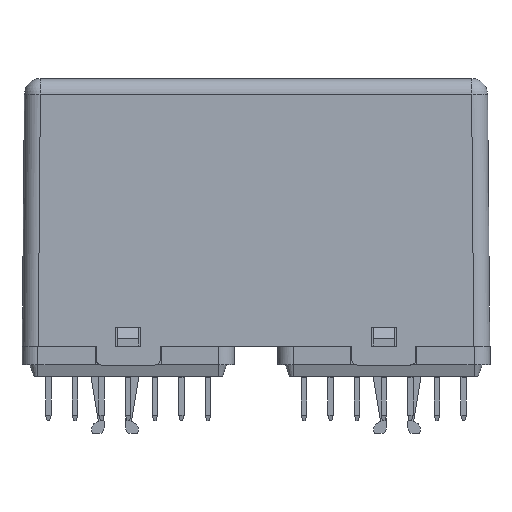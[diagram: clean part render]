
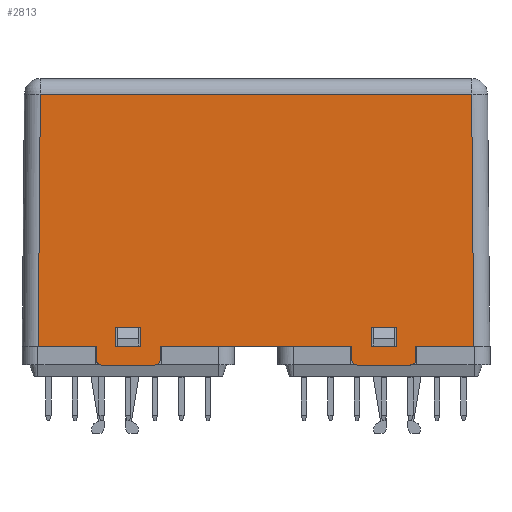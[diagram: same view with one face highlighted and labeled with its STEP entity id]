
A CAD part, front view. The second image highlights one B-rep face of the part: STEP entity #2813.
In plain terms, the highlighted planar face has unit normal (0, -1, 0.011).
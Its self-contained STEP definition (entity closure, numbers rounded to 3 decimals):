
#903=CARTESIAN_POINT('',(40.909,-19.998,-0.05));
#904=VERTEX_POINT('',#903);
#912=CARTESIAN_POINT('',(30.,-19.998,-0.05));
#913=VERTEX_POINT('',#912);
#914=CARTESIAN_POINT('',(40.909,-19.998,-0.05));
#915=DIRECTION('',(-1.0,0.0,0.0));
#916=VECTOR('',#915,10.909);
#917=LINE('',#914,#916);
#918=EDGE_CURVE('',#904,#913,#917,.T.);
#1050=CARTESIAN_POINT('',(21.6,-19.999,-0.15));
#1051=VERTEX_POINT('',#1050);
#1058=CARTESIAN_POINT('',(26.4,-19.999,-0.15));
#1059=VERTEX_POINT('',#1058);
#1060=CARTESIAN_POINT('',(26.4,-19.999,-0.15));
#1061=DIRECTION('',(-1.0,0.0,0.0));
#1062=VECTOR('',#1061,4.8);
#1063=LINE('',#1060,#1062);
#1064=EDGE_CURVE('',#1059,#1051,#1063,.T.);
#1991=CARTESIAN_POINT('',(-30.0,-19.998,-0.05));
#1992=VERTEX_POINT('',#1991);
#1999=CARTESIAN_POINT('',(-40.909,-19.998,-0.05));
#2000=VERTEX_POINT('',#1999);
#2001=CARTESIAN_POINT('',(-30.0,-19.998,-0.05));
#2002=DIRECTION('',(-1.0,0.0,0.0));
#2003=VECTOR('',#2002,10.909);
#2004=LINE('',#2001,#2003);
#2005=EDGE_CURVE('',#1992,#2000,#2004,.T.);
#2040=CARTESIAN_POINT('',(-30.0,-20.024,-2.55));
#2041=VERTEX_POINT('',#2040);
#2048=CARTESIAN_POINT('',(-30.0,-20.024,-2.55));
#2049=DIRECTION('',(0.0,0.011,1.));
#2050=VECTOR('',#2049,2.5);
#2051=LINE('',#2048,#2050);
#2052=EDGE_CURVE('',#2041,#1992,#2051,.T.);
#2064=CARTESIAN_POINT('',(-29.0,-20.035,-3.55));
#2065=VERTEX_POINT('',#2064);
#2072=CARTESIAN_POINT('',(-29.0,-20.024,-2.55));
#2073=DIRECTION('',(0.,1.,-0.011));
#2074=DIRECTION('',(0.,0.011,1.));
#2075=AXIS2_PLACEMENT_3D('',#2072,#2073,#2074);
#2076=ELLIPSE('',#2075,1.,1.);
#2077=EDGE_CURVE('',#2065,#2041,#2076,.T.);
#2089=CARTESIAN_POINT('',(-19.0,-20.035,-3.55));
#2090=VERTEX_POINT('',#2089);
#2097=CARTESIAN_POINT('',(-29.,-20.035,-3.55));
#2098=DIRECTION('',(1.0,0.0,0.0));
#2099=VECTOR('',#2098,10.0);
#2100=LINE('',#2097,#2099);
#2101=EDGE_CURVE('',#2065,#2090,#2100,.T.);
#2113=CARTESIAN_POINT('',(-18.,-20.024,-2.55));
#2114=VERTEX_POINT('',#2113);
#2121=CARTESIAN_POINT('',(-19.0,-20.024,-2.55));
#2122=DIRECTION('',(0.,1.,-0.011));
#2123=DIRECTION('',(0.,0.011,1.));
#2124=AXIS2_PLACEMENT_3D('',#2121,#2122,#2123);
#2125=ELLIPSE('',#2124,1.,1.);
#2126=EDGE_CURVE('',#2114,#2090,#2125,.T.);
#2138=CARTESIAN_POINT('',(-18.,-19.998,-0.05));
#2139=VERTEX_POINT('',#2138);
#2146=CARTESIAN_POINT('',(-18.0,-19.998,-0.05));
#2147=DIRECTION('',(0.,-0.011,-1.));
#2148=VECTOR('',#2147,2.5);
#2149=LINE('',#2146,#2148);
#2150=EDGE_CURVE('',#2139,#2114,#2149,.T.);
#2196=CARTESIAN_POINT('',(18.,-19.998,-0.05));
#2197=VERTEX_POINT('',#2196);
#2204=CARTESIAN_POINT('',(18.,-19.998,-0.05));
#2205=DIRECTION('',(-1.0,0.0,0.0));
#2206=VECTOR('',#2205,36.0);
#2207=LINE('',#2204,#2206);
#2208=EDGE_CURVE('',#2197,#2139,#2207,.T.);
#2236=CARTESIAN_POINT('',(18.,-20.024,-2.55));
#2237=VERTEX_POINT('',#2236);
#2244=CARTESIAN_POINT('',(18.,-20.024,-2.55));
#2245=DIRECTION('',(0.,0.011,1.));
#2246=VECTOR('',#2245,2.5);
#2247=LINE('',#2244,#2246);
#2248=EDGE_CURVE('',#2237,#2197,#2247,.T.);
#2260=CARTESIAN_POINT('',(19.,-20.035,-3.55));
#2261=VERTEX_POINT('',#2260);
#2268=CARTESIAN_POINT('',(19.,-20.024,-2.55));
#2269=DIRECTION('',(0.,1.,-0.011));
#2270=DIRECTION('',(0.,0.011,1.));
#2271=AXIS2_PLACEMENT_3D('',#2268,#2269,#2270);
#2272=ELLIPSE('',#2271,1.,1.);
#2273=EDGE_CURVE('',#2261,#2237,#2272,.T.);
#2285=CARTESIAN_POINT('',(29.,-20.035,-3.55));
#2286=VERTEX_POINT('',#2285);
#2293=CARTESIAN_POINT('',(19.,-20.035,-3.55));
#2294=DIRECTION('',(1.0,0.0,0.0));
#2295=VECTOR('',#2294,10.);
#2296=LINE('',#2293,#2295);
#2297=EDGE_CURVE('',#2261,#2286,#2296,.T.);
#2308=CARTESIAN_POINT('',(-40.5,-19.5,47.282));
#2309=VERTEX_POINT('',#2308);
#2402=CARTESIAN_POINT('',(40.5,-19.5,47.282));
#2403=VERTEX_POINT('',#2402);
#2572=CARTESIAN_POINT('',(-40.5,-19.5,47.282));
#2573=DIRECTION('',(1.0,0.0,0.0));
#2574=VECTOR('',#2573,81.);
#2575=LINE('',#2572,#2574);
#2576=EDGE_CURVE('',#2309,#2403,#2575,.T.);
#2604=CARTESIAN_POINT('',(40.5,-19.5,47.282));
#2605=DIRECTION('',(0.009,-0.011,-1.));
#2606=VECTOR('',#2605,47.336);
#2607=LINE('',#2604,#2606);
#2608=EDGE_CURVE('',#2403,#904,#2607,.T.);
#2676=CARTESIAN_POINT('',(-40.909,-19.998,-0.05));
#2677=DIRECTION('',(0.009,0.011,1.));
#2678=VECTOR('',#2677,47.336);
#2679=LINE('',#2676,#2678);
#2680=EDGE_CURVE('',#2000,#2309,#2679,.T.);
#2718=CARTESIAN_POINT('',(0.,-19.5,47.282));
#2719=DIRECTION('',(0.,1.,-0.011));
#2720=DIRECTION('',(0.,-0.011,-1.));
#2721=AXIS2_PLACEMENT_3D('',#2718,#2719,#2720);
#2722=PLANE('',#2721);
#2723=ORIENTED_EDGE('',*,*,#2608,.F.);
#2724=ORIENTED_EDGE('',*,*,#2576,.F.);
#2725=ORIENTED_EDGE('',*,*,#2680,.F.);
#2726=ORIENTED_EDGE('',*,*,#2005,.F.);
#2727=ORIENTED_EDGE('',*,*,#2052,.F.);
#2728=ORIENTED_EDGE('',*,*,#2077,.F.);
#2729=ORIENTED_EDGE('',*,*,#2101,.T.);
#2730=ORIENTED_EDGE('',*,*,#2126,.F.);
#2731=ORIENTED_EDGE('',*,*,#2150,.F.);
#2732=ORIENTED_EDGE('',*,*,#2208,.F.);
#2733=ORIENTED_EDGE('',*,*,#2248,.F.);
#2734=ORIENTED_EDGE('',*,*,#2273,.F.);
#2735=ORIENTED_EDGE('',*,*,#2297,.T.);
#2736=CARTESIAN_POINT('',(30.,-20.024,-2.55));
#2737=VERTEX_POINT('',#2736);
#2738=CARTESIAN_POINT('',(29.,-20.024,-2.55));
#2739=DIRECTION('',(0.,1.,-0.011));
#2740=DIRECTION('',(0.,0.011,1.));
#2741=AXIS2_PLACEMENT_3D('',#2738,#2739,#2740);
#2742=ELLIPSE('',#2741,1.,1.0);
#2743=EDGE_CURVE('',#2737,#2286,#2742,.T.);
#2744=ORIENTED_EDGE('',*,*,#2743,.F.);
#2745=CARTESIAN_POINT('',(30.0,-19.998,-0.05));
#2746=DIRECTION('',(0.0,-0.011,-1.));
#2747=VECTOR('',#2746,2.5);
#2748=LINE('',#2745,#2747);
#2749=EDGE_CURVE('',#913,#2737,#2748,.T.);
#2750=ORIENTED_EDGE('',*,*,#2749,.F.);
#2751=ORIENTED_EDGE('',*,*,#918,.F.);
#2752=EDGE_LOOP('',(#2723,#2724,#2725,#2726,#2727,#2728,#2729,#2730,#2731,#2732,#2733,#2734,#2735,#2744,#2750,#2751));
#2753=FACE_OUTER_BOUND('',#2752,.T.);
#2754=CARTESIAN_POINT('',(26.4,-19.961,3.45));
#2755=VERTEX_POINT('',#2754);
#2756=CARTESIAN_POINT('',(26.4,-19.961,3.45));
#2757=DIRECTION('',(0.0,-0.011,-1.));
#2758=VECTOR('',#2757,3.6);
#2759=LINE('',#2756,#2758);
#2760=EDGE_CURVE('',#2755,#1059,#2759,.T.);
#2761=ORIENTED_EDGE('',*,*,#2760,.T.);
#2762=ORIENTED_EDGE('',*,*,#1064,.T.);
#2763=CARTESIAN_POINT('',(21.6,-19.961,3.45));
#2764=VERTEX_POINT('',#2763);
#2765=CARTESIAN_POINT('',(21.6,-19.999,-0.15));
#2766=DIRECTION('',(0.,0.011,1.));
#2767=VECTOR('',#2766,3.6);
#2768=LINE('',#2765,#2767);
#2769=EDGE_CURVE('',#1051,#2764,#2768,.T.);
#2770=ORIENTED_EDGE('',*,*,#2769,.T.);
#2771=CARTESIAN_POINT('',(21.6,-19.961,3.45));
#2772=DIRECTION('',(1.0,0.0,0.0));
#2773=VECTOR('',#2772,4.8);
#2774=LINE('',#2771,#2773);
#2775=EDGE_CURVE('',#2764,#2755,#2774,.T.);
#2776=ORIENTED_EDGE('',*,*,#2775,.T.);
#2777=EDGE_LOOP('',(#2761,#2762,#2770,#2776));
#2778=FACE_BOUND('',#2777,.T.);
#2779=CARTESIAN_POINT('',(-21.6,-19.961,3.45));
#2780=VERTEX_POINT('',#2779);
#2781=CARTESIAN_POINT('',(-21.6,-19.999,-0.15));
#2782=VERTEX_POINT('',#2781);
#2783=CARTESIAN_POINT('',(-21.6,-19.961,3.45));
#2784=DIRECTION('',(0.,-0.011,-1.));
#2785=VECTOR('',#2784,3.6);
#2786=LINE('',#2783,#2785);
#2787=EDGE_CURVE('',#2780,#2782,#2786,.T.);
#2788=ORIENTED_EDGE('',*,*,#2787,.T.);
#2789=CARTESIAN_POINT('',(-26.4,-19.999,-0.15));
#2790=VERTEX_POINT('',#2789);
#2791=CARTESIAN_POINT('',(-21.6,-19.999,-0.15));
#2792=DIRECTION('',(-1.0,0.0,0.0));
#2793=VECTOR('',#2792,4.8);
#2794=LINE('',#2791,#2793);
#2795=EDGE_CURVE('',#2782,#2790,#2794,.T.);
#2796=ORIENTED_EDGE('',*,*,#2795,.T.);
#2797=CARTESIAN_POINT('',(-26.4,-19.961,3.45));
#2798=VERTEX_POINT('',#2797);
#2799=CARTESIAN_POINT('',(-26.4,-19.999,-0.15));
#2800=DIRECTION('',(0.0,0.011,1.));
#2801=VECTOR('',#2800,3.6);
#2802=LINE('',#2799,#2801);
#2803=EDGE_CURVE('',#2790,#2798,#2802,.T.);
#2804=ORIENTED_EDGE('',*,*,#2803,.T.);
#2805=CARTESIAN_POINT('',(-26.4,-19.961,3.45));
#2806=DIRECTION('',(1.0,0.0,0.0));
#2807=VECTOR('',#2806,4.8);
#2808=LINE('',#2805,#2807);
#2809=EDGE_CURVE('',#2798,#2780,#2808,.T.);
#2810=ORIENTED_EDGE('',*,*,#2809,.T.);
#2811=EDGE_LOOP('',(#2788,#2796,#2804,#2810));
#2812=FACE_BOUND('',#2811,.T.);
#2813=ADVANCED_FACE('',(#2753,#2778,#2812),#2722,.F.);
